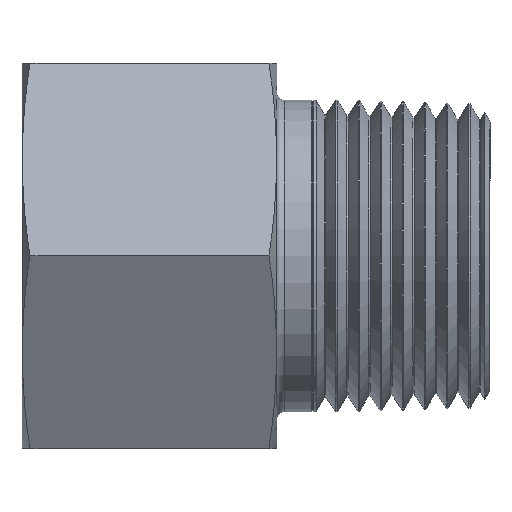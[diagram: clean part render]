
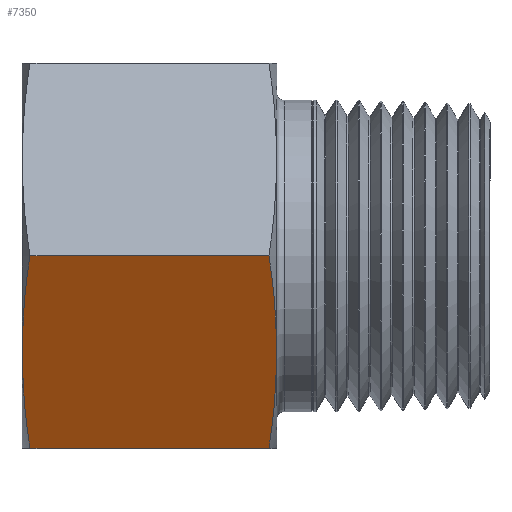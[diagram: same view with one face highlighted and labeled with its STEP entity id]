
A CAD part, top view. The second image highlights one B-rep face of the part: STEP entity #7350.
In plain terms, the highlighted planar face has unit normal (0, -0.5, 0.866).
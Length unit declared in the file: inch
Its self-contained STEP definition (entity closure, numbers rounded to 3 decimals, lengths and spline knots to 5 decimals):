
#38=LINE('',#10109,#406);
#39=LINE('',#10208,#407);
#406=VECTOR('',#8293,39.37008);
#407=VECTOR('',#8298,39.37008);
#782=B_SPLINE_CURVE_WITH_KNOTS('',3,(#9538,#9539,#9540,#9541),
 .UNSPECIFIED.,.F.,.F.,(4,4),(0.,1.),.UNSPECIFIED.);
#783=B_SPLINE_CURVE_WITH_KNOTS('',3,(#9543,#9544,#9545,#9546),
 .UNSPECIFIED.,.F.,.F.,(4,4),(0.,1.),.UNSPECIFIED.);
#947=B_SPLINE_CURVE_WITH_KNOTS('',3,(#10183,#10184,#10185,#10186),
 .UNSPECIFIED.,.F.,.F.,(4,4),(0.,1.),.UNSPECIFIED.);
#948=B_SPLINE_CURVE_WITH_KNOTS('',3,(#10188,#10189,#10190,#10191),
 .UNSPECIFIED.,.F.,.F.,(4,4),(0.,1.),.UNSPECIFIED.);
#949=B_SPLINE_CURVE_WITH_KNOTS('',3,(#10193,#10194,#10195,#10196),
 .UNSPECIFIED.,.F.,.F.,(4,4),(0.,1.),.UNSPECIFIED.);
#950=B_SPLINE_CURVE_WITH_KNOTS('',3,(#10198,#10199,#10200,#10201),
 .UNSPECIFIED.,.F.,.F.,(4,4),(0.,1.),.UNSPECIFIED.);
#951=B_SPLINE_CURVE_WITH_KNOTS('',3,(#10203,#10204,#10205,#10206),
 .UNSPECIFIED.,.F.,.F.,(4,4),(0.,1.),.UNSPECIFIED.);
#952=B_SPLINE_CURVE_WITH_KNOTS('',3,(#10210,#10211,#10212,#10213),
 .UNSPECIFIED.,.F.,.F.,(4,4),(0.,1.),.UNSPECIFIED.);
#1010=PLANE('',#7736);
#1628=ORIENTED_EDGE('',*,*,#2992,.F.);
#1629=ORIENTED_EDGE('',*,*,#2978,.T.);
#1630=ORIENTED_EDGE('',*,*,#2993,.F.);
#1631=ORIENTED_EDGE('',*,*,#2994,.F.);
#1632=ORIENTED_EDGE('',*,*,#2995,.F.);
#1633=ORIENTED_EDGE('',*,*,#2996,.F.);
#1634=ORIENTED_EDGE('',*,*,#2997,.F.);
#1635=ORIENTED_EDGE('',*,*,#2998,.F.);
#1636=ORIENTED_EDGE('',*,*,#2810,.F.);
#1637=ORIENTED_EDGE('',*,*,#2809,.F.);
#2809=EDGE_CURVE('',#3522,#3507,#782,.F.);
#2810=EDGE_CURVE('',#3507,#3523,#783,.F.);
#2978=EDGE_CURVE('',#3678,#3677,#38,.T.);
#2992=EDGE_CURVE('',#3678,#3522,#947,.F.);
#2993=EDGE_CURVE('',#3691,#3677,#948,.F.);
#2994=EDGE_CURVE('',#3692,#3691,#949,.F.);
#2995=EDGE_CURVE('',#3693,#3692,#950,.F.);
#2996=EDGE_CURVE('',#3694,#3693,#951,.F.);
#2997=EDGE_CURVE('',#3695,#3694,#39,.T.);
#2998=EDGE_CURVE('',#3523,#3695,#952,.F.);
#3507=VERTEX_POINT('',#9440);
#3522=VERTEX_POINT('',#9532);
#3523=VERTEX_POINT('',#9547);
#3677=VERTEX_POINT('',#10108);
#3678=VERTEX_POINT('',#10110);
#3691=VERTEX_POINT('',#10192);
#3692=VERTEX_POINT('',#10197);
#3693=VERTEX_POINT('',#10202);
#3694=VERTEX_POINT('',#10207);
#3695=VERTEX_POINT('',#10209);
#4178=EDGE_LOOP('',(#1628,#1629,#1630,#1631,#1632,#1633,#1634,#1635,#1636,
#1637));
#4613=FACE_BOUND('',#4178,.T.);
#7350=ADVANCED_FACE('',(#4613),#1010,.F.);
#7736=AXIS2_PLACEMENT_3D('',#10187,#8296,#8297);
#8293=DIRECTION('',(1.,0.,0.));
#8296=DIRECTION('',(0.,0.5,-0.866));
#8297=DIRECTION('',(0.,-0.866,-0.5));
#8298=DIRECTION('',(1.,0.,0.));
#9440=CARTESIAN_POINT('',(0.,-0.40625,0.70365));
#9532=CARTESIAN_POINT('',(0.00034,-0.44563,0.68091));
#9538=CARTESIAN_POINT('',(0.,-0.40625,0.70365));
#9539=CARTESIAN_POINT('',(0.,-0.41937,0.69607));
#9540=CARTESIAN_POINT('',(0.00011,-0.4325,0.68849));
#9541=CARTESIAN_POINT('',(0.00034,-0.44563,0.68091));
#9543=CARTESIAN_POINT('',(0.00034,-0.36687,0.72638));
#9544=CARTESIAN_POINT('',(0.00011,-0.38,0.7188));
#9545=CARTESIAN_POINT('',(0.,-0.39313,0.71122));
#9546=CARTESIAN_POINT('',(0.,-0.40625,0.70365));
#9547=CARTESIAN_POINT('',(0.00034,-0.36687,0.72638));
#10108=CARTESIAN_POINT('',(1.04232,-0.8125,0.4691));
#10109=CARTESIAN_POINT('',(-0.868,-0.8125,0.4691));
#10110=CARTESIAN_POINT('',(0.03368,-0.8125,0.4691));
#10183=CARTESIAN_POINT('',(0.00034,-0.44563,0.68091));
#10184=CARTESIAN_POINT('',(0.0023,-0.55924,0.61532));
#10185=CARTESIAN_POINT('',(0.01342,-0.68153,0.54471));
#10186=CARTESIAN_POINT('',(0.03368,-0.8125,0.4691));
#10187=CARTESIAN_POINT('',(-0.868,-0.8125,0.4691));
#10188=CARTESIAN_POINT('',(1.04232,-0.8125,0.4691));
#10189=CARTESIAN_POINT('',(1.06258,-0.68153,0.54471));
#10190=CARTESIAN_POINT('',(1.0737,-0.55924,0.61532));
#10191=CARTESIAN_POINT('',(1.07566,-0.44563,0.68091));
#10192=CARTESIAN_POINT('',(1.07566,-0.44563,0.68091));
#10193=CARTESIAN_POINT('',(1.07566,-0.44563,0.68091));
#10194=CARTESIAN_POINT('',(1.07589,-0.4325,0.68849));
#10195=CARTESIAN_POINT('',(1.076,-0.41937,0.69607));
#10196=CARTESIAN_POINT('',(1.076,-0.40625,0.70365));
#10197=CARTESIAN_POINT('',(1.076,-0.40625,0.70365));
#10198=CARTESIAN_POINT('',(1.076,-0.40625,0.70365));
#10199=CARTESIAN_POINT('',(1.076,-0.39313,0.71122));
#10200=CARTESIAN_POINT('',(1.07589,-0.38,0.7188));
#10201=CARTESIAN_POINT('',(1.07566,-0.36687,0.72638));
#10202=CARTESIAN_POINT('',(1.07566,-0.36687,0.72638));
#10203=CARTESIAN_POINT('',(1.07566,-0.36687,0.72638));
#10204=CARTESIAN_POINT('',(1.0737,-0.25326,0.79197));
#10205=CARTESIAN_POINT('',(1.06258,-0.13097,0.86258));
#10206=CARTESIAN_POINT('',(1.04232,0.,0.93819));
#10207=CARTESIAN_POINT('',(1.04232,0.,0.93819));
#10208=CARTESIAN_POINT('',(-0.868,0.,0.93819));
#10209=CARTESIAN_POINT('',(0.03368,0.,0.93819));
#10210=CARTESIAN_POINT('',(0.03368,0.,0.93819));
#10211=CARTESIAN_POINT('',(0.01342,-0.13097,0.86258));
#10212=CARTESIAN_POINT('',(0.0023,-0.25326,0.79197));
#10213=CARTESIAN_POINT('',(0.00034,-0.36687,0.72638));
